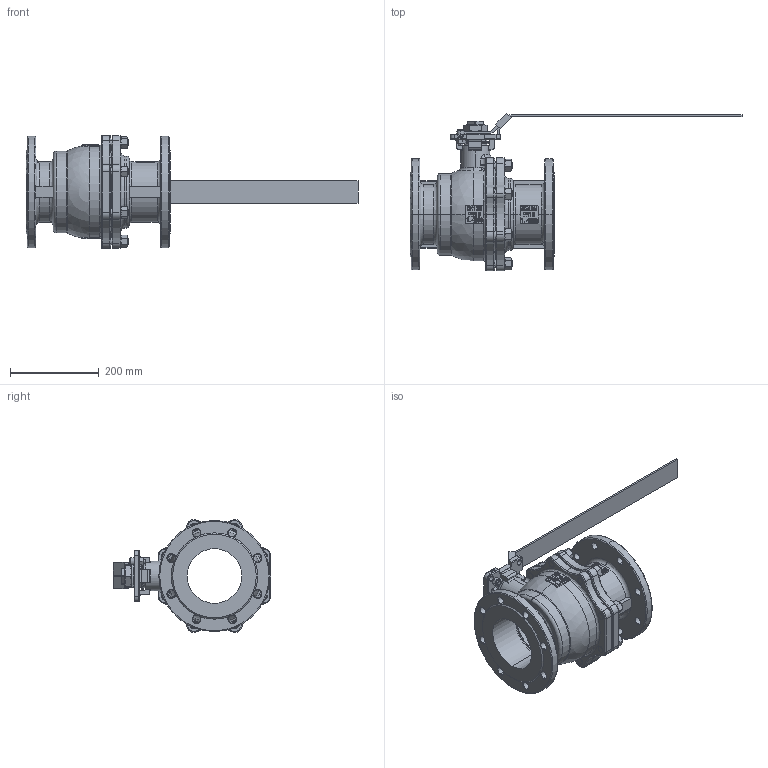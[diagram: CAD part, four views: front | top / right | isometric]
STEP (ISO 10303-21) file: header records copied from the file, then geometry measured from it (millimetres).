
FILE_DESCRIPTION (( 'STEP AP203' ), '1' );
FILE_NAME ('2PC肅梓詠え滅鳶125.STEP', '2024-11-14T02:54:44', ( '' ), ( '' ), 'SwSTEP 2.0', 'SolidWorks 2016', '' );
FILE_SCHEMA (( 'CONFIG_CONTROL_DESIGN' ));
Length unit declared in the file: millimetre
Products named in the file (14): double end studs bm=1.25d gb_GB_FASTENER_BOLT_DESBB A M16X40-N; hexagon socket head cap screws gb_GB_FASTENER_SCREWS_HSHCS M10X25-N; 忒梟; 2PC肅梓詠え滅鳶125; 蹟譫36; 概裝; 揤遠125-150; hex nuts, style 1-grades ab gb_GB_FASTENER_NUT_SNAB1 M16-N; DN125耜极; hex nuts, style 1-grades ab gb_GB_FASTENER_NUT_SNAB1 M10-N; 評倛粟え66; DN125概极; 球体; 坶輸
Assembly tree (29 placements, depth 2):
  2PC肅梓詠え滅鳶125
    DN125概极
    DN125耜极
    球体
    忒梟
    概裝
    hex nuts, style 1-grades ab gb_GB_FASTENER_NUT_SNAB1 M16-N  x8
    double end studs bm=1.25d gb_GB_FASTENER_BOLT_DESBB A M16X40-N  x8
    蹟譫36  x2
    揤遠125-150
    評倛粟え66  x2
    hexagon socket head cap screws gb_GB_FASTENER_SCREWS_HSHCS M10X25-N
    hex nuts, style 1-grades ab gb_GB_FASTENER_NUT_SNAB1 M10-N
    坶輸
Bounding box: 747 x 354.6 x 253.73 mm (x, y, z)
Volume: 5725281.8 mm3; surface area: 1005503.9 mm2
Topology: 29 solids, 29 shells, 1427 faces, 3590 edges, 2226 vertices
Faces by surface type: plane 519, cylinder 309, cone 268, bspline 186, torus 139, sphere 6
Entity records: 49367 total; most frequent: CARTESIAN_POINT 20047, ORIENTED_EDGE 5940, DIRECTION 5392, EDGE_CURVE 2970, AXIS2_PLACEMENT_3D 1987, VERTEX_POINT 1888, LINE 1418, VECTOR 1418
